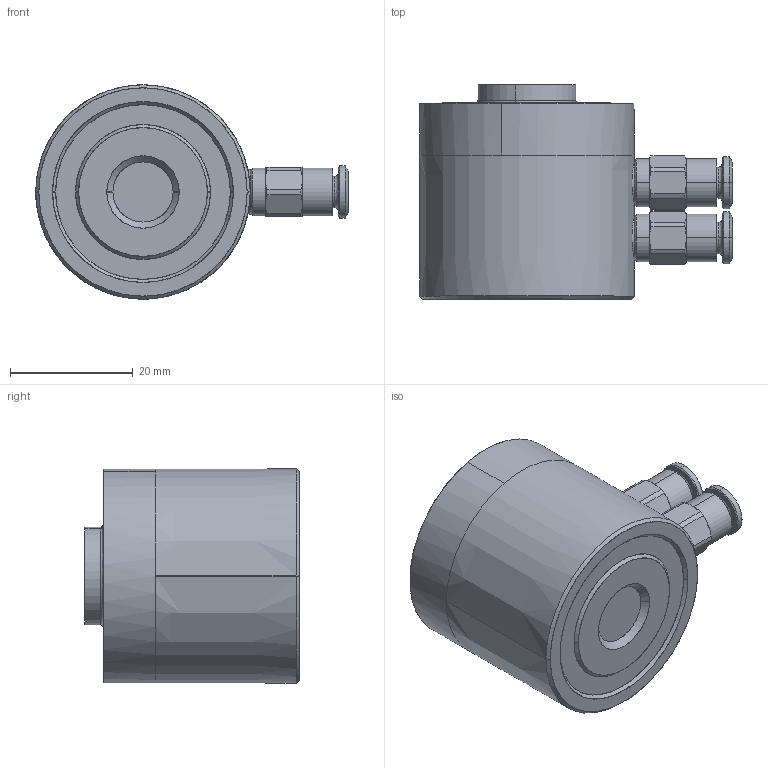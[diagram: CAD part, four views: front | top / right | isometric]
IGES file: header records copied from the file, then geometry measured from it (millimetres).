
Start section: SolidWorks IGES file using analytic representation for surfaces
Global section: file name: C:\PDM\Products\MAP-6\MAP-6 oheistiedostot\MAP-6 3d-model\MAP-6 3D-model b.IGS; native system: SolidWorks 2016; preprocessor: SolidWorks 2016; author: juho.suominen; date: 160627.103130; units: millimetre
Bounding box: 51 x 35 x 35 mm (x, y, z)
Surface area: 6981.7 mm2 (no closed solid volume)
Topology: 0 solids, 0 shells, 131 faces, 1880 edges, 1880 vertices
Faces by surface type: revolution 94, bspline 37
